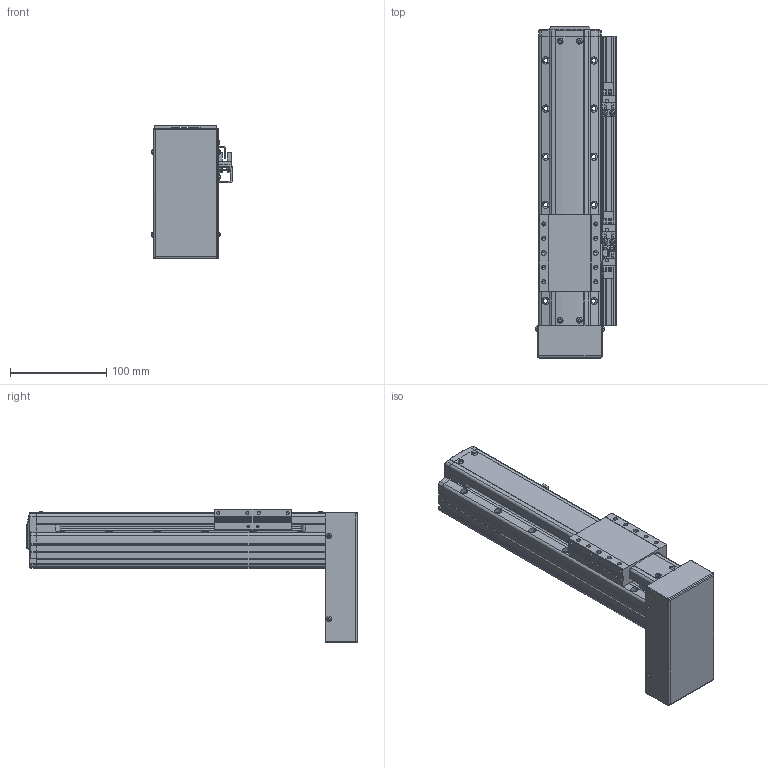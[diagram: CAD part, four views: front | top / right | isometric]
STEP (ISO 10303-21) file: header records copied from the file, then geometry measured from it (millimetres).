
FILE_DESCRIPTION(('STEP AP214'),'1');
FILE_NAME('Z:/Web/3D/PSA65/STP/PSA65-150 (3D)/PSA65ㅁㅁ-150PB+3SR.stp','2014-06-25T03:20:34',(' '),(' '),'Spatial InterOp 3D',' ',' ');
FILE_SCHEMA(('automotive_design'));
Length unit declared in the file: millimetre
Products named in the file (67): SLIDE; RRCV-PA060; 1; 2; 3; 4; 5; 6; 7; 8; 9; 10; 11; 12; 13; 14; 15; 16; 17; 18; 19; 20; 21; 22; 23; 24; 25; 26; 27; 28; 29; 30; 31; 스크루 : Round - M3.0 x 8.0; RN8 x 0.75; SHAFT-SAN65; BASE; 스크루 : Round - M3.0 x 6.0; BTCV-SAN65; M3.0 x 6.0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
Bounding box: 84.06 x 344.8 x 139 mm (x, y, z)
Volume: 1313445.6 mm3; surface area: 225918.5 mm2
Topology: 67 solids, 67 shells, 2182 faces, 5743 edges, 3703 vertices
Faces by surface type: plane 1385, cylinder 539, cone 173, sphere 50, bspline 19, torus 16
Entity records: 86496 total; most frequent: CARTESIAN_POINT 13330, DIRECTION 11536, ORIENTED_EDGE 11286, EDGE_CURVE 5643, LINE 4038, VECTOR 4038, AXIS2_PLACEMENT_3D 3749, VERTEX_POINT 3703
